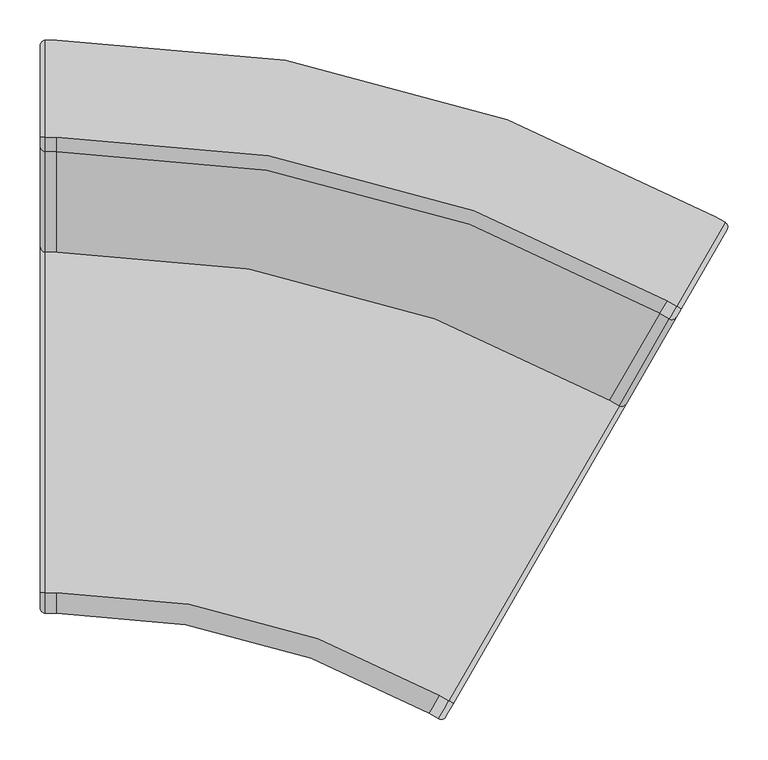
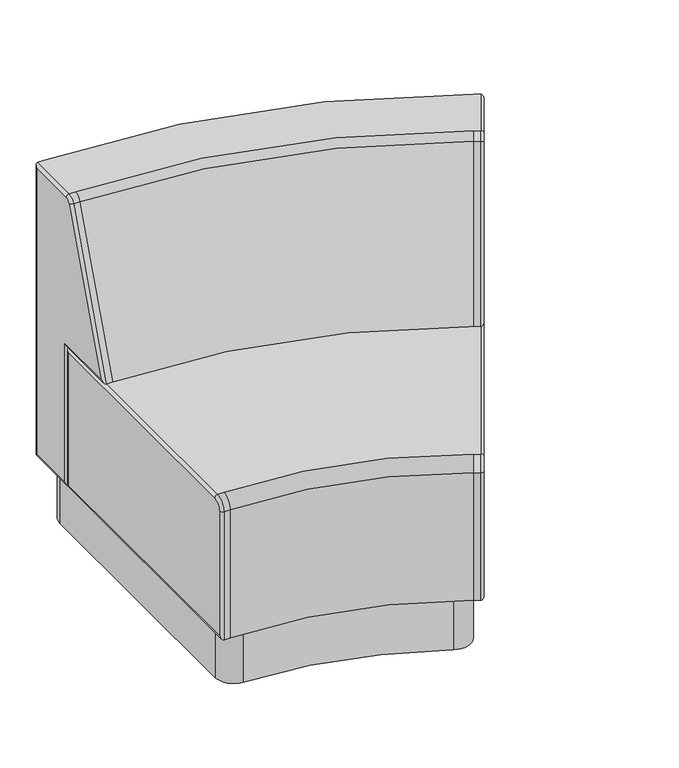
"""IFC4 building model written with IfcOpenShell, lengths in millimetres: furniture geometry, Stance_HC-Rosetta-30_Curve_Inside_Plinth_Base : RMR30-IN-BHP."""

from ifc_helpers import new_model, si_unit, point, frame, frame_2d, origin, origin_with_axes, place, context, project, spatial, polyline, circle_curve, ellipse_curve, trimmed, segment, composite_curve, outline, extrude, source, transform, mapped, element, save
from ifc_brep_helpers import plane_surface, cylinder_surface, revolved_surface, advanced_brep


def furniture_4f7b3afb(model_context):
    return source(origin(), model_context, "Body", "SolidModel", [
        extrude(outline(composite_curve([segment(trimmed(circle_curve(frame_2d((20.225, -1635.8018342)), 1615.5768342), [point((60.9119976, -20.7374158))], [point((792.5212356, -216.7715203))], False, "CARTESIAN"), True, "CONTINUOUS"), segment(trimmed(circle_curve(frame_2d((773.5493699, -251.6307511)), 39.6875), [point((792.5212356, -216.7715203))], [point((807.9197531, -271.4745011))], False, "CARTESIAN"), True, "CONTINUOUS"), segment(polyline([(807.9197531, -271.4745011), (512.0820363, -783.8804573)]), True, "CONTINUOUS"), segment(trimmed(circle_curve(frame_2d((477.7116531, -764.0367073)), 39.6875), [point((512.0820363, -783.8804573))], [point((459.2695635, -799.1790889))], False, "CARTESIAN"), True, "CONTINUOUS"), segment(trimmed(circle_curve(frame_2d((20.225, -1635.8018342)), 944.8268342), [point((459.2695635, -799.1790889))], [point((58.3126272, -691.7430017))], True, "CARTESIAN"), True, "CONTINUOUS"), segment(trimmed(circle_curve(frame_2d((59.9125, -652.0877616)), 39.6875), [point((58.3126272, -691.7430017))], [point((20.225, -652.0877616))], False, "CARTESIAN"), True, "CONTINUOUS"), segment(polyline([(20.225, -652.0877616), (20.225, -60.4123281)]), True, "CONTINUOUS"), segment(trimmed(circle_curve(frame_2d((59.9125, -60.4123281)), 39.6875), [point((20.225, -60.4123281))], [point((60.9119976, -20.7374158))], False, "CARTESIAN"), True, "CONTINUOUS")], self_intersect=False)), frame((0.0, 0.0, 6.3627), z_axis=(0.0, 0.0, 1.0), x_axis=(1.0, 0.0, 0.0)), (0.0, 0.0, 1.0), 128.51892),
        advanced_brep(
        [(777.8009171, -323.6418552, 457.2), (20.225, -120.65, 457.2), (6.35, -120.65, 457.2), (6.35, -685.7999758, 457.2), (20.225, -685.7999758, 457.2), (495.2259292, -813.0760912, 457.2), (507.2420317, -820.0135912, 457.2), (789.8170196, -330.5793552, 457.2), (777.8009171, -323.6418552, 134.88162), (20.225, -120.65, 134.88162), (789.8170196, -330.5793552, 134.88162), (494.5420317, -842.0106364, 134.88162), (482.5259292, -835.0731364, 134.88162), (20.225, -711.1999758, 134.88162), (6.35, -711.1999758, 134.88162), (6.35, -120.65, 134.88162), (482.5259292, -835.0731364, 431.8), (20.225, -711.1999758, 431.8), (503.216293, -839.6863751, 431.8), (512.741293, -823.1885912, 450.85), (494.5420317, -842.0106364, 431.8), (503.216293, -839.6863751, 141.23162), (792.1412809, -339.2536165, 141.23162), (792.1412809, -339.2536165, 450.85), (0.0, -127.0, 141.23162), (0.0, -127.0, 450.85), (0.0, -704.8499758, 141.23162), (6.35, -711.1999758, 431.8), (0.0, -704.8499758, 431.8), (0.0, -685.7999758, 450.85)],
        [
            (0, 1, circle_curve(frame((20.225, -1635.8018342, 457.2), z_axis=(0.0, 0.0, 1.0), x_axis=(0.0, 1.0, 0.0)), 1515.1518342)),
            (1, 2),
            (2, 3),
            (3, 4),
            (4, 5, circle_curve(frame((20.225, -1635.8018342, 457.2), z_axis=(0.0, 0.0, -1.0), x_axis=(0.0, 1.0, 0.0)), 950.0018585)),
            (5, 6),
            (6, 7),
            (7, 0),
            (0, 8),
            (8, 9, circle_curve(frame((20.225, -1635.8018342, 134.88162), z_axis=(0.0, 0.0, 1.0), x_axis=(0.0, 1.0, 0.0)), 1515.1518342)),
            (9, 1),
            (8, 10),
            (10, 11),
            (11, 12),
            (12, 13, circle_curve(frame((20.225, -1635.8018342, 134.88162), z_axis=(0.0, 0.0, 1.0), x_axis=(0.0, 1.0, 0.0)), 924.6018585)),
            (13, 14),
            (14, 15),
            (15, 9),
            (12, 16),
            (16, 17, circle_curve(frame((20.225, -1635.8018342, 431.8), z_axis=(0.0, 0.0, 1.0), x_axis=(0.0, 1.0, 0.0)), 924.6018585)),
            (17, 13),
            (4, 17, circle_curve(frame((20.225, -685.7999758, 431.8), z_axis=(1.0, 0.0, 0.0), x_axis=(0.0, 1.0, 0.0)), 25.4)),
            (16, 5, circle_curve(frame((495.2259292, -813.0760912, 431.8), z_axis=(-0.8660254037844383, 0.5000000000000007, 0.0), x_axis=(0.5000000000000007, 0.8660254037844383, 0.0)), 25.4)),
            (18, 19, circle_curve(frame((512.741293, -823.1885912, 431.8), z_axis=(-0.866025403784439, 0.4999999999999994, 0.0), x_axis=(0.0, 0.0, 1.0)), 19.05)),
            (19, 6, circle_curve(frame((507.2420317, -820.0135912, 450.85), z_axis=(-0.4999999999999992, -0.8660254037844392, 0.0), x_axis=(0.0, 0.0, -1.0)), 6.35)),
            (6, 20, circle_curve(frame((507.2420317, -820.0135912, 431.8), z_axis=(0.866025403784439, -0.4999999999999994, 0.0), x_axis=(0.0, 0.0, 1.0)), 25.4)),
            (20, 18, circle_curve(frame((497.7170317, -836.5113751, 431.8), z_axis=(0.0, 0.0, 1.0), x_axis=(0.4999999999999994, 0.866025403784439, 0.0)), 6.35)),
            (16, 20),
            (20, 11),
            (11, 21, ellipse_curve(frame((497.7170317, -836.5113751, 141.23162), z_axis=(-0.35355339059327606, -0.6123724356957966, 0.7071067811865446), x_axis=(0.3535533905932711, 0.6123724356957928, 0.7071067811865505)), 8.9802561, 6.35)),
            (21, 18),
            (10, 22, ellipse_curve(frame((786.6420196, -336.0786165, 141.23162), z_axis=(-0.35355339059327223, -0.6123724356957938, -0.7071067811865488), x_axis=(-0.353553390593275, -0.6123724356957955, 0.7071067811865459)), 8.9802561, 6.35)),
            (22, 21),
            (10, 7),
            (7, 23, ellipse_curve(frame((786.6420196, -336.0786165, 450.85), z_axis=(0.35355339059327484, 0.6123724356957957, -0.7071067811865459), x_axis=(-0.3535533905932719, -0.6123724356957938, -0.7071067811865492)), 8.9802561, 6.35)),
            (23, 22),
            (19, 23),
            (15, 2),
            (15, 24, ellipse_curve(frame((6.35, -127.0, 141.23162), z_axis=(0.0, 0.7071067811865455, 0.7071067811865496), x_axis=(0.0, -0.7071067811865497, 0.7071067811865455)), 8.9802561, 6.35)),
            (24, 25),
            (25, 2, ellipse_curve(frame((6.35, -127.0, 450.85), z_axis=(0.0, 0.7071067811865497, -0.7071067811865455), x_axis=(0.0, 0.7071067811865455, 0.7071067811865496)), 8.9802561, 6.35)),
            (14, 26, ellipse_curve(frame((6.35, -704.8499758, 141.23162), z_axis=(0.0, 0.7071067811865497, -0.7071067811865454), x_axis=(0.0, 0.7071067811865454, 0.7071067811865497)), 8.9802561, 6.35)),
            (26, 24),
            (17, 27),
            (27, 14),
            (27, 28, circle_curve(frame((6.35, -704.8499758, 431.8), z_axis=(0.0, 0.0, -1.0), x_axis=(0.0, -1.0, 0.0)), 6.35)),
            (28, 26),
            (3, 27, circle_curve(frame((6.35, -685.7999758, 431.8), z_axis=(1.0, 0.0, 0.0), x_axis=(0.0, -1.0, 0.0)), 25.4)),
            (3, 29, circle_curve(frame((6.35, -685.7999758, 450.85), z_axis=(0.0, -1.0, 0.0), x_axis=(0.0, 0.0, 1.0)), 6.35)),
            (29, 28, circle_curve(frame((0.0, -685.7999758, 431.8), z_axis=(1.0, 0.0, 0.0), x_axis=(0.0, -1.0, 0.0)), 19.05)),
            (25, 29),
        ],
        [
            plane_surface(frame((20.225, -1635.8018342, 457.2), z_axis=(0.0, 0.0, 1.0), x_axis=(0.0, 1.0, 0.0))),
            cylinder_surface(frame((20.225, -1635.8018342, 618.9648354), z_axis=(0.0, 0.0, -1.0), x_axis=(0.0, 1.0, 0.0)), 1515.1518342),
            plane_surface(frame((20.225, -1635.8018342, 134.88162), z_axis=(0.0, 0.0, -1.0), x_axis=(0.0, 1.0, 0.0))),
            revolved_surface(polyline([(20.225, -711.1999757, 134.88162), (20.225, -711.1999757, 431.8)]), (20.225, -1635.8018342, 618.9648354), (0.0, 0.0, -1.0)),
            revolved_surface(trimmed(ellipse_curve(frame((20.225, -685.7999758, 431.8), z_axis=(-1.0, 0.0, 0.0), x_axis=(0.0, 1.0, 0.0)), 25.4, 25.4), [point((20.225, -711.1999758, 431.8))], [point((20.225, -685.7999758, 457.2))], True, "CARTESIAN"), (20.225, -1635.8018342, 618.9648354), (0.0, 0.0, -1.0)),
            revolved_surface(trimmed(ellipse_curve(frame((507.2420317, -820.0135912, 450.85), z_axis=(0.4999999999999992, 0.8660254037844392, 0.0), x_axis=(0.0, 0.0, -1.0)), 6.35, 6.35), [point((507.2420317, -820.0135912, 457.2))], [point((512.741293, -823.1885912, 450.85))], True, "CARTESIAN"), (495.2259292, -813.0760912, 431.8), (0.866025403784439, -0.4999999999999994, 0.0)),
            cylinder_surface(frame((495.2259292, -813.0760912, 431.8), z_axis=(0.866025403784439, -0.4999999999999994, 0.0), x_axis=(0.0, 0.0, 1.0)), 25.4),
            cylinder_surface(frame((497.7170317, -836.5113751, 431.8), z_axis=(0.0, 0.0, 1.0000000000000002), x_axis=(0.4999999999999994, 0.866025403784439, 0.0)), 6.35),
            plane_surface(frame((482.5259292, -835.0731364, 431.8), z_axis=(-0.499999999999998, -0.8660254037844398, 0.0), x_axis=(0.0, 0.0, -1.0))),
            cylinder_surface(frame((494.5420317, -842.0106364, 141.23162), z_axis=(-0.4999999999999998, -0.8660254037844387, 0.0), x_axis=(0.0, 0.0, 1.0)), 6.35),
            cylinder_surface(frame((786.6420196, -336.0786165, 134.88162), z_axis=(0.0, 0.0, -1.0), x_axis=(-0.4999999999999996, -0.8660254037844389, 0.0)), 6.35),
            plane_surface(frame((777.8009171, -323.6418552, 134.88162), z_axis=(0.500000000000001, 0.8660254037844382, 0.0), x_axis=(0.0, 0.0, 1.0))),
            cylinder_surface(frame((789.8170196, -330.5793552, 450.85), z_axis=(0.49999999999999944, 0.8660254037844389, 0.0), x_axis=(0.0, 0.0, -1.0)), 6.35),
            plane_surface(frame((792.1412809, -339.2536165, 450.85), z_axis=(0.8660254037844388, -0.4999999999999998, 0.0), x_axis=(-0.4999999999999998, -0.8660254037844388, 0.0))),
            plane_surface(frame((20.225, -120.65, 457.2), z_axis=(0.0, 1.0, 0.0), x_axis=(0.0, 0.0, -1.0))),
            cylinder_surface(frame((6.35, -127.0, 457.2), z_axis=(0.0, 0.0, 1.0), x_axis=(0.0, 1.0, 0.0)), 6.35),
            cylinder_surface(frame((6.35, -120.65, 141.23162), z_axis=(0.0, 1.0, 0.0), x_axis=(0.0, 0.0, -1.0)), 6.35),
            plane_surface(frame((20.225, -711.1999758, 134.88162), z_axis=(0.0, -1.0, 0.0), x_axis=(0.0, 0.0, 1.0))),
            cylinder_surface(frame((6.35, -704.8499758, 134.88162), z_axis=(0.0, 0.0, -1.0), x_axis=(0.0, -1.0, 0.0)), 6.35),
            cylinder_surface(frame((0.0, -685.7999758, 431.8), z_axis=(-1.0, 0.0, 0.0), x_axis=(0.0, -1.0, 0.0)), 25.4),
            revolved_surface(trimmed(ellipse_curve(frame((6.35, -704.8499758, 431.8), z_axis=(0.0, 0.0, -1.0), x_axis=(0.0, -1.0, 0.0)), 6.35, 6.35), [point((6.35, -711.1999758, 431.8))], [point((0.0, -704.8499758, 431.8))], True, "CARTESIAN"), (0.0, -685.7999758, 431.8), (-1.0, 0.0, 0.0)),
            cylinder_surface(frame((6.35, -685.7999758, 450.85), z_axis=(0.0, -1.0, 0.0), x_axis=(0.0, 0.0, 1.0)), 6.35),
            plane_surface(frame((0.0, -685.7999758, 450.85), z_axis=(-1.0, 0.0, 0.0), x_axis=(0.0, 1.0, 0.0))),
        ],
        [
            (0, [[1, 2, 3, 4, 5, 6, 7, 8]]),
            (1, [[-1, 9, 10, 11]]),
            (2, [[-10, 12, 13, 14, 15, 16, 17, 18]]),
            (3, [[-15, 19, 20, 21]]),
            (4, [[-5, 22, -20, 23]]),
            (5, [[24, 25, 26, 27]]),
            (6, [[-26, -6, -23, 28]]),
            (7, [[-27, 29, 30, 31]]),
            (8, [[-28, -19, -14, -29]]),
            (9, [[-30, -13, 32, 33]]),
            (10, [[-32, 34, 35, 36]]),
            (11, [[-12, -9, -8, -34]]),
            (12, [[-25, 37, -35, -7]]),
            (13, [[-24, -31, -33, -36, -37]]),
            (14, [[-2, -11, -18, 38]]),
            (15, [[-38, 39, 40, 41]]),
            (16, [[-39, -17, 42, 43]]),
            (17, [[-16, -21, 44, 45]]),
            (18, [[-42, -45, 46, 47]]),
            (19, [[-44, -22, -4, 48]]),
            (20, [[-46, -48, 49, 50]]),
            (21, [[-41, 51, -49, -3]]),
            (22, [[-40, -43, -47, -50, -51]]),
        ],
    ),
        advanced_brep(
        [(838.1259171, -219.1558902, 812.8), (20.225, 0.0, 812.8), (6.35, 0.0, 812.8), (6.35, -120.3764333, 812.8), (20.225, -120.3764333, 812.8), (777.9377005, -323.4049395, 812.8), (789.953803, -330.3424395, 812.8), (850.1420196, -226.0933902, 812.8), (838.1259171, -219.1558902, 134.88162), (20.225, 0.0, 134.88162), (850.1420196, -226.0933902, 134.88162), (789.8170196, -330.5793552, 134.88162), (777.8009171, -323.6418552, 134.88162), (20.225, -120.65, 134.88162), (6.35, -120.65, 134.88162), (6.35, 0.0, 134.88162), (777.8009171, -323.6418552, 457.2), (20.225, -120.65, 457.2), (789.8170196, -330.5793552, 457.2), (718.5704185, -453.9820882, 457.2), (706.554316, -447.0445882, 457.2), (20.225, -263.1432022, 457.2), (6.35, -263.1432022, 457.2), (6.35, -120.65, 457.2), (768.9871283, -338.9077853, 800.2654837), (20.225, -138.2775777, 800.2654837), (789.4860161, -343.85267, 798.0936558), (795.4530643, -333.5174395, 806.45), (781.0032307, -345.8452853, 800.2654837), (728.6040497, -449.3033291, 463.55), (798.4912809, -328.2550939, 463.55), (798.4912809, -328.2550939, 141.23162), (852.4662809, -234.7676515, 141.23162), (852.4662809, -234.7676515, 806.45), (0.0, -6.35, 141.23162), (0.0, -6.35, 806.45), (0.0, -114.3, 141.23162), (0.0, -114.3, 463.55), (0.0, -254.0744624, 463.55), (6.35, -138.2775777, 800.2654837), (0.0, -132.3105296, 798.0936558), (0.0, -120.3764333, 806.45)],
        [
            (0, 1, circle_curve(frame((20.225, -1635.8018342, 812.8), z_axis=(0.0, 0.0, 1.0), x_axis=(0.0, 1.0, 0.0)), 1635.8018342)),
            (1, 2),
            (2, 3),
            (3, 4),
            (4, 5, circle_curve(frame((20.225, -1635.8018342, 812.8), z_axis=(0.0, 0.0, -1.0), x_axis=(0.0, 1.0, 0.0)), 1515.425401)),
            (5, 6),
            (6, 7),
            (7, 0),
            (0, 8),
            (8, 9, circle_curve(frame((20.225, -1635.8018342, 134.88162), z_axis=(0.0, 0.0, 1.0), x_axis=(0.0, 1.0, 0.0)), 1635.8018342)),
            (9, 1),
            (8, 10),
            (10, 11),
            (11, 12),
            (12, 13, circle_curve(frame((20.225, -1635.8018342, 134.88162), z_axis=(0.0, 0.0, 1.0), x_axis=(0.0, 1.0, 0.0)), 1515.1518342)),
            (13, 14),
            (14, 15),
            (15, 9),
            (12, 16),
            (16, 17, circle_curve(frame((20.225, -1635.8018342, 457.2), z_axis=(0.0, 0.0, 1.0), x_axis=(0.0, 1.0, 0.0)), 1515.1518342)),
            (17, 13),
            (16, 18),
            (18, 19),
            (19, 20),
            (20, 21, circle_curve(frame((20.225, -1635.8018342, 457.2), z_axis=(0.0, 0.0, 1.0), x_axis=(0.0, 1.0, 0.0)), 1372.658632)),
            (21, 22),
            (22, 23),
            (23, 17),
            (20, 24),
            (24, 25, circle_curve(frame((20.225, -1635.8018342, 800.2654837), z_axis=(0.0, 0.0, 1.0), x_axis=(0.0, 1.0, 0.0)), 1497.5242565)),
            (25, 21),
            (4, 25, circle_curve(frame((20.225, -120.3764333, 793.75), z_axis=(1.0, 0.0, 0.0), x_axis=(0.0, 1.0, 0.0)), 19.05)),
            (24, 5, circle_curve(frame((777.9377005, -323.4049395, 793.75), z_axis=(-0.866025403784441, 0.4999999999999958, 0.0), x_axis=(0.4999999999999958, 0.866025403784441, 0.0)), 19.05)),
            (26, 27, circle_curve(frame((795.4530643, -333.5174395, 793.75), z_axis=(-0.866025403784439, 0.4999999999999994, 0.0), x_axis=(0.0, 0.0, 1.0)), 12.7)),
            (27, 6, circle_curve(frame((789.953803, -330.3424395, 806.45), z_axis=(-0.5000000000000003, -0.8660254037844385, 0.0), x_axis=(0.0, 0.0, -1.0)), 6.35)),
            (6, 28, circle_curve(frame((789.953803, -330.3424395, 793.75), z_axis=(0.866025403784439, -0.4999999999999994, 0.0), x_axis=(0.0, 0.0, 1.0)), 19.05)),
            (28, 26, circle_curve(frame((783.9867548, -340.67767, 798.0936558), z_axis=(0.1710100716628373, 0.29619813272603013, 0.9396926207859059), x_axis=(0.4698463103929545, 0.8137976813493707, -0.34202014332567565)), 6.35)),
            (24, 28),
            (28, 19),
            (19, 29, ellipse_curve(frame((723.1047884, -446.1283291, 463.55), z_axis=(-0.2867882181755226, -0.49673176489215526, 0.8191520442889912), x_axis=(0.4095760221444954, 0.7094064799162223, 0.5735764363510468)), 11.0708872, 6.35)),
            (29, 26),
            (18, 30, ellipse_curve(frame((792.9920196, -325.0800939, 463.55), z_axis=(-0.353553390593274, -0.6123724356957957, 0.7071067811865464), x_axis=(-0.35355339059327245, -0.6123724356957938, -0.7071067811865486)), 8.9802561, 6.35)),
            (30, 29),
            (18, 11),
            (11, 31, ellipse_curve(frame((792.9920196, -325.0800939, 141.23162), z_axis=(-0.353553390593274, -0.6123724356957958, 0.7071067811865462), x_axis=(0.3535533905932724, 0.6123724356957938, 0.7071067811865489)), 8.9802561, 6.35)),
            (31, 30),
            (10, 32, ellipse_curve(frame((846.9670196, -231.5926515, 141.23162), z_axis=(-0.35355339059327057, -0.6123724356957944, -0.7071067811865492), x_axis=(-0.35355339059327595, -0.6123724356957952, 0.7071067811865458)), 8.9802561, 6.35)),
            (32, 31),
            (10, 7),
            (7, 33, ellipse_curve(frame((846.9670196, -231.5926515, 806.45), z_axis=(0.3535533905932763, 0.6123724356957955, -0.7071067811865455), x_axis=(-0.35355339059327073, -0.612372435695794, -0.7071067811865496)), 8.9802561, 6.35)),
            (33, 32),
            (27, 33),
            (15, 2),
            (15, 34, ellipse_curve(frame((6.35, -6.35, 141.23162), z_axis=(0.0, 0.7071067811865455, 0.7071067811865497), x_axis=(0.0, -0.7071067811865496, 0.7071067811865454)), 8.9802561, 6.35)),
            (34, 35),
            (35, 2, ellipse_curve(frame((6.35, -6.35, 806.45), z_axis=(0.0, 0.7071067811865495, -0.7071067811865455), x_axis=(0.0, 0.7071067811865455, 0.7071067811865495)), 8.9802561, 6.35)),
            (14, 36, ellipse_curve(frame((6.35, -114.3, 141.23162), z_axis=(0.0, 0.7071067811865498, -0.7071067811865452), x_axis=(0.0, 0.7071067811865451, 0.7071067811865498)), 8.9802561, 6.35)),
            (36, 34),
            (23, 14),
            (23, 37, ellipse_curve(frame((6.35, -114.3, 463.55), z_axis=(0.0, 0.7071067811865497, -0.7071067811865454), x_axis=(0.0, -0.7071067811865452, -0.7071067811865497)), 8.9802561, 6.35)),
            (37, 36),
            (22, 38, ellipse_curve(frame((6.35, -254.0744624, 463.55), z_axis=(0.0, 0.5735764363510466, -0.8191520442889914), x_axis=(0.0, 0.8191520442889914, 0.5735764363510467)), 11.0708872, 6.35)),
            (38, 37),
            (25, 39),
            (39, 22),
            (39, 40, circle_curve(frame((6.35, -132.3105296, 798.0936558), z_axis=(0.0, -0.34202014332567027, -0.939692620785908), x_axis=(0.0, -0.939692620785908, 0.34202014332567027)), 6.35)),
            (40, 38),
            (3, 39, circle_curve(frame((6.35, -120.3764333, 793.75), z_axis=(1.0, 0.0, 0.0), x_axis=(0.0, -0.9396926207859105, 0.3420201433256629)), 19.05)),
            (3, 41, circle_curve(frame((6.35, -120.3764333, 806.45), z_axis=(0.0, -1.0, 0.0), x_axis=(0.0, 0.0, 1.0)), 6.35)),
            (41, 40, circle_curve(frame((0.0, -120.3764333, 793.75), z_axis=(1.0, 0.0, 0.0), x_axis=(0.0, -0.9396926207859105, 0.3420201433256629)), 12.7)),
            (35, 41),
        ],
        [
            plane_surface(frame((20.225, -1635.8018342, 812.8), z_axis=(0.0, 0.0, 1.0), x_axis=(0.0, 1.0, 0.0))),
            cylinder_surface(frame((20.225, -1635.8018342, 618.9648354), z_axis=(0.0, 0.0, -1.0), x_axis=(0.0, 1.0, 0.0)), 1635.8018342),
            plane_surface(frame((20.225, -1635.8018342, 134.88162), z_axis=(0.0, 0.0, -1.0), x_axis=(0.0, 1.0, 0.0))),
            revolved_surface(polyline([(20.225, -120.65000000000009, 134.88162), (20.225, -120.65000000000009, 457.2)]), (20.225, -1635.8018342, 618.9648354), (0.0, 0.0, -1.0)),
            plane_surface(frame((20.225, -1635.8018342, 457.2), z_axis=(0.0, 0.0, -1.0), x_axis=(0.0, 1.0, 0.0))),
            revolved_surface(polyline([(20.225, -263.1432022, 457.2), (20.225, -138.2775777, 800.2654837)]), (20.225, -1635.8018342, 618.9648354), (0.0, 0.0, -1.0)),
            revolved_surface(trimmed(ellipse_curve(frame((20.225, -120.3764333, 793.75), z_axis=(-1.0, 0.0, 0.0), x_axis=(0.0, 1.0, 0.0)), 19.05, 19.05), [point((20.225, -138.2775777, 800.2654837))], [point((20.225, -120.3764333, 812.8))], True, "CARTESIAN"), (20.225, -1635.8018342, 618.9648354), (0.0, 0.0, -1.0)),
            revolved_surface(trimmed(ellipse_curve(frame((789.953803, -330.3424395, 806.45), z_axis=(0.5000000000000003, 0.8660254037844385, 0.0), x_axis=(0.0, 0.0, -1.0)), 6.35, 6.35), [point((789.953803, -330.3424395, 812.8))], [point((795.4530643, -333.5174395, 806.45))], True, "CARTESIAN"), (777.9377005, -323.4049395, 793.75), (0.866025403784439, -0.4999999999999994, 0.0)),
            cylinder_surface(frame((777.9377005, -323.4049395, 793.75), z_axis=(0.866025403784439, -0.4999999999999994, 0.0), x_axis=(0.0, 0.0, 1.0)), 19.05),
            cylinder_surface(frame((783.9867548, -340.67767, 798.0936558), z_axis=(0.17101007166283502, 0.2961981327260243, 0.9396926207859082), x_axis=(0.46984631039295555, 0.8137976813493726, -0.34202014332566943)), 6.35),
            plane_surface(frame((768.9871283, -338.9077853, 800.2654837), z_axis=(-0.46984631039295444, -0.8137976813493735, 0.34202014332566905), x_axis=(-0.17101007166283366, -0.2961981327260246, -0.9396926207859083))),
            cylinder_surface(frame((718.5704185, -453.9820882, 463.55), z_axis=(-0.49999999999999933, -0.8660254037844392, 0.0), x_axis=(0.0, 0.0, 1.0)), 6.35),
            cylinder_surface(frame((792.9920196, -325.0800939, 457.2), z_axis=(0.0, 0.0, 1.0), x_axis=(0.5000000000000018, 0.8660254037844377, 0.0)), 6.35),
            plane_surface(frame((777.8009171, -323.6418552, 457.2), z_axis=(-0.5000000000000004, -0.8660254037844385, 0.0), x_axis=(0.0, 0.0, -1.0))),
            cylinder_surface(frame((789.8170196, -330.5793552, 141.23162), z_axis=(-0.4999999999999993, -0.8660254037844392, 0.0), x_axis=(0.0, 0.0, 1.0)), 6.35),
            cylinder_surface(frame((846.9670196, -231.5926515, 134.88162), z_axis=(0.0, 0.0, -1.0), x_axis=(-0.4999999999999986, -0.8660254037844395, 0.0)), 6.35),
            plane_surface(frame((838.1259171, -219.1558902, 134.88162), z_axis=(0.5, 0.8660254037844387, 0.0), x_axis=(0.0, 0.0, 1.0))),
            cylinder_surface(frame((850.1420196, -226.0933902, 806.45), z_axis=(0.4999999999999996, 0.8660254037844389, 0.0), x_axis=(0.0, 0.0, -1.0)), 6.35),
            plane_surface(frame((852.4662809, -234.7676515, 806.45), z_axis=(0.8660254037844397, -0.4999999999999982, 0.0), x_axis=(-0.4999999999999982, -0.8660254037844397, 0.0))),
            plane_surface(frame((20.225, 0.0, 812.8), z_axis=(0.0, 1.0, 0.0), x_axis=(0.0, 0.0, -1.0))),
            cylinder_surface(frame((6.35, -6.35, 812.8), z_axis=(0.0, 0.0, 1.0), x_axis=(0.0, 1.0, 0.0)), 6.35),
            cylinder_surface(frame((6.35, 0.0, 141.23162), z_axis=(0.0, 1.0, 0.0), x_axis=(0.0, 0.0, -1.0)), 6.35),
            plane_surface(frame((20.225, -120.65, 134.88162), z_axis=(0.0, -1.0, 0.0), x_axis=(0.0, 0.0, 1.0))),
            cylinder_surface(frame((6.35, -114.3, 134.88162), z_axis=(0.0, 0.0, -1.0), x_axis=(0.0, -1.0, 0.0)), 6.35),
            cylinder_surface(frame((6.35, -120.65, 463.55), z_axis=(0.0, 1.0, 0.0), x_axis=(0.0, 0.0, -1.0)), 6.35),
            plane_surface(frame((20.225, -263.1432022, 457.2), z_axis=(0.0, -0.9396926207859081, 0.3420201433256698), x_axis=(0.0, 0.3420201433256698, 0.9396926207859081))),
            cylinder_surface(frame((6.35, -257.1761541, 455.0281721), z_axis=(0.0, -0.34202014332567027, -0.939692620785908), x_axis=(0.0, -0.939692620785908, 0.34202014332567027)), 6.35),
            cylinder_surface(frame((0.0, -120.3764333, 793.75), z_axis=(-1.0, 0.0, 0.0), x_axis=(0.0, -0.9396926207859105, 0.3420201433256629)), 19.05),
            revolved_surface(trimmed(ellipse_curve(frame((6.35, -132.3105296, 798.0936558), z_axis=(0.0, -0.34202014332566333, -0.9396926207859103), x_axis=(0.0, -0.9396926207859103, 0.34202014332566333)), 6.35, 6.35), [point((6.35, -138.2775777, 800.2654837))], [point((0.0, -132.3105296, 798.0936558))], True, "CARTESIAN"), (0.0, -120.3764333, 793.75), (-1.0, 0.0, 0.0)),
            cylinder_surface(frame((6.35, -120.3764333, 806.45), z_axis=(0.0, -1.0, 0.0), x_axis=(0.0, 0.0, 1.0)), 6.35),
            plane_surface(frame((0.0, -120.3764333, 806.45), z_axis=(-1.0, 0.0, 0.0), x_axis=(0.0, 1.0, 0.0))),
        ],
        [
            (0, [[1, 2, 3, 4, 5, 6, 7, 8]]),
            (1, [[-1, 9, 10, 11]]),
            (2, [[-10, 12, 13, 14, 15, 16, 17, 18]]),
            (3, [[-15, 19, 20, 21]]),
            (4, [[-20, 22, 23, 24, 25, 26, 27, 28]]),
            (5, [[-25, 29, 30, 31]]),
            (6, [[-5, 32, -30, 33]]),
            (7, [[34, 35, 36, 37]]),
            (8, [[-36, -6, -33, 38]]),
            (9, [[-37, 39, 40, 41]]),
            (10, [[-38, -29, -24, -39]]),
            (11, [[-40, -23, 42, 43]]),
            (12, [[-42, 44, 45, 46]]),
            (13, [[-22, -19, -14, -44]]),
            (14, [[-45, -13, 47, 48]]),
            (15, [[-47, 49, 50, 51]]),
            (16, [[-12, -9, -8, -49]]),
            (17, [[-35, 52, -50, -7]]),
            (18, [[-34, -41, -43, -46, -48, -51, -52]]),
            (19, [[-2, -11, -18, 53]]),
            (20, [[-53, 54, 55, 56]]),
            (21, [[-54, -17, 57, 58]]),
            (22, [[-16, -21, -28, 59]]),
            (23, [[-57, -59, 60, 61]]),
            (24, [[-60, -27, 62, 63]]),
            (25, [[-26, -31, 64, 65]]),
            (26, [[-62, -65, 66, 67]]),
            (27, [[-64, -32, -4, 68]]),
            (28, [[-66, -68, 69, 70]]),
            (29, [[-56, 71, -69, -3]]),
            (30, [[-55, -58, -61, -63, -67, -70, -71]]),
        ],
    ),
        extrude(outline(composite_curve([segment(trimmed(circle_curve(frame_2d((52.9205532, -54.0033118)), 11.90625), [point((52.9205532, -65.9095618))], [point((52.9205532, -42.0970618))], False, "CARTESIAN"), True, "CONTINUOUS"), segment(trimmed(circle_curve(frame_2d((52.9205532, -54.0033118)), 11.90625), [point((52.9205532, -42.0970618))], [point((52.9205532, -65.9095618))], False, "CARTESIAN"), True, "CONTINUOUS")], self_intersect=False)), origin_with_axes(), (0.0, 0.0, 1.0), 6.3627),
        extrude(outline(composite_curve([segment(trimmed(circle_curve(frame_2d((52.9205532, -657.1966882)), 11.90625), [point((52.9205532, -669.1029382))], [point((52.9205532, -645.2904382))], False, "CARTESIAN"), True, "CONTINUOUS"), segment(trimmed(circle_curve(frame_2d((52.9205532, -657.1966882)), 11.90625), [point((52.9205532, -645.2904382))], [point((52.9205532, -669.1029382))], False, "CARTESIAN"), True, "CONTINUOUS")], self_intersect=False)), origin_with_axes(), (0.0, 0.0, 1.0), 6.3627),
        extrude(outline(composite_curve([segment(trimmed(circle_curve(frame_2d((782.8090816, -249.5763536)), 11.90625), [point((782.8090816, -261.4826036))], [point((782.8090816, -237.6701036))], False, "CARTESIAN"), True, "CONTINUOUS"), segment(trimmed(circle_curve(frame_2d((782.8090816, -249.5763536)), 11.90625), [point((782.8090816, -237.6701036))], [point((782.8090816, -261.4826036))], False, "CARTESIAN"), True, "CONTINUOUS")], self_intersect=False)), origin_with_axes(), (0.0, 0.0, 1.0), 6.3627),
        extrude(outline(composite_curve([segment(trimmed(circle_curve(frame_2d((481.2123934, -771.9571409)), 11.90625), [point((481.2123934, -783.8633909))], [point((481.2123934, -760.0508909))], False, "CARTESIAN"), True, "CONTINUOUS"), segment(trimmed(circle_curve(frame_2d((481.2123934, -771.9571409)), 11.90625), [point((481.2123934, -760.0508909))], [point((481.2123934, -783.8633909))], False, "CARTESIAN"), True, "CONTINUOUS")], self_intersect=False)), origin_with_axes(), (0.0, 0.0, 1.0), 6.3627),
    ])


if __name__ == "__main__":
    model = new_model("IFC4")
    model_context = context("Model", 3, world=origin())
    ifc_project = project(units=[si_unit("LENGTHUNIT", "METRE", prefix="MILLI")], contexts=[model_context])
    site = spatial("IfcSite", under=ifc_project)
    building = spatial("IfcBuilding", under=site)
    placement = place(None, origin())
    furniture_shape = furniture_4f7b3afb(model_context)
    element("IfcFurniture", 1, ObjectType="Stance_HC-Rosetta-30_Curve_Inside_Plinth_Base : RMR30-IN-BHP", at=placement, inside=building, context=model_context, shape_type="MappedRepresentation", body=[
        mapped(furniture_shape, transform((0.0, 0.0, 0.0), x_axis=(1.0, 0.0, 0.0), y_axis=(0.0, 1.0, 0.0), z_axis=(0.0, 0.0, 1.0))),
    ])
    save(model, "model.ifc")
